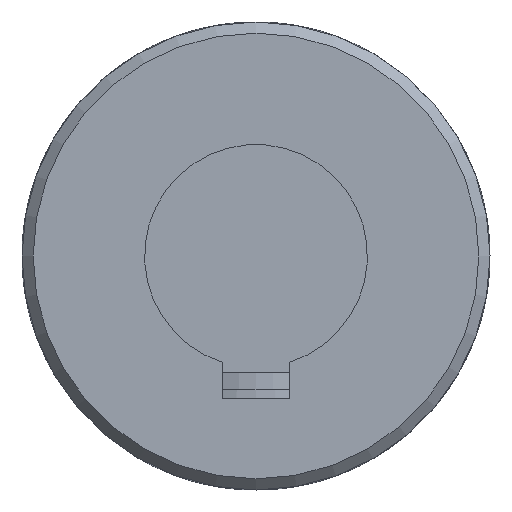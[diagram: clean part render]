
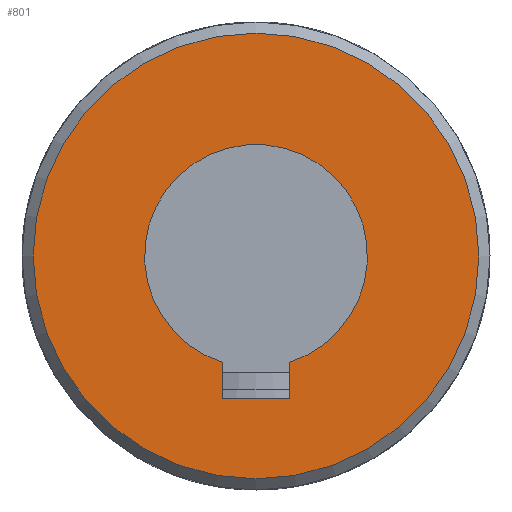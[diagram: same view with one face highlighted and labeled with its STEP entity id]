
A CAD part, front view. The second image highlights one B-rep face of the part: STEP entity #801.
In plain terms, the highlighted planar face has unit normal (0, -1, 0).
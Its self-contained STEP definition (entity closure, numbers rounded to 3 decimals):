
#91=LINE('',#1218,#124);
#95=LINE('',#1241,#128);
#97=LINE('',#1249,#130);
#124=VECTOR('',#996,3.261);
#128=VECTOR('',#1008,6.);
#130=VECTOR('',#1012,3.261);
#156=PLANE('',#872);
#181=FACE_BOUND('',#274,.T.);
#209=FACE_OUTER_BOUND('',#273,.T.);
#273=EDGE_LOOP('',(#634));
#274=EDGE_LOOP('',(#635,#636,#637,#638));
#319=CIRCLE('',#861,10.);
#323=CIRCLE('',#870,20.);
#367=VERTEX_POINT('',#1215);
#368=VERTEX_POINT('',#1217);
#371=VERTEX_POINT('',#1227);
#373=VERTEX_POINT('',#1239);
#378=VERTEX_POINT('',#1296);
#450=EDGE_CURVE('',#368,#367,#91,.T.);
#454=EDGE_CURVE('',#371,#368,#319,.T.);
#458=EDGE_CURVE('',#367,#373,#95,.T.);
#461=EDGE_CURVE('',#373,#371,#97,.T.);
#467=EDGE_CURVE('',#378,#378,#323,.T.);
#634=ORIENTED_EDGE('',*,*,#467,.F.);
#635=ORIENTED_EDGE('',*,*,#458,.T.);
#636=ORIENTED_EDGE('',*,*,#461,.T.);
#637=ORIENTED_EDGE('',*,*,#454,.T.);
#638=ORIENTED_EDGE('',*,*,#450,.T.);
#801=ADVANCED_FACE('',(#209,#181),#156,.F.);
#861=AXIS2_PLACEMENT_3D('',#1228,#1002,#1003);
#870=AXIS2_PLACEMENT_3D('',#1297,#1025,#1026);
#872=AXIS2_PLACEMENT_3D('',#1521,#1033,#1034);
#996=DIRECTION('',(0.,0.,-1.));
#1002=DIRECTION('center_axis',(0.,1.,0.));
#1003=DIRECTION('ref_axis',(-0.3,0.,0.954));
#1008=DIRECTION('',(-1.,0.,0.));
#1012=DIRECTION('',(0.,0.,1.));
#1025=DIRECTION('center_axis',(0.,1.,0.));
#1026=DIRECTION('ref_axis',(1.,0.,0.));
#1033=DIRECTION('center_axis',(0.,1.,0.));
#1034=DIRECTION('ref_axis',(0.,0.,1.));
#1215=CARTESIAN_POINT('',(3.,-51.,-12.8));
#1217=CARTESIAN_POINT('',(3.,-51.,-9.539));
#1218=CARTESIAN_POINT('',(3.,-51.,-4.77));
#1227=CARTESIAN_POINT('',(-3.,-51.,-9.539));
#1228=CARTESIAN_POINT('Origin',(0.,-51.,0.));
#1239=CARTESIAN_POINT('',(-3.,-51.,-12.8));
#1241=CARTESIAN_POINT('',(1.5,-51.,-12.8));
#1249=CARTESIAN_POINT('',(-3.,-51.,-6.4));
#1296=CARTESIAN_POINT('',(-20.,-51.,0.));
#1297=CARTESIAN_POINT('Origin',(0.,-51.,0.));
#1521=CARTESIAN_POINT('Origin',(0.,-51.,0.));
